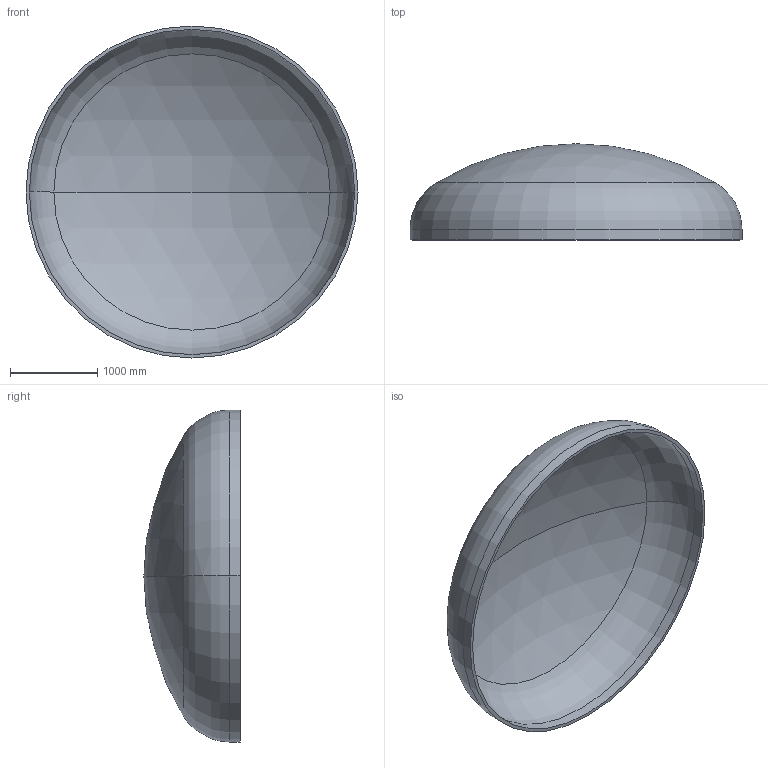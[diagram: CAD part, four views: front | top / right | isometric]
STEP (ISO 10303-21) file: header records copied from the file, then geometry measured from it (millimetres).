
FILE_DESCRIPTION (( 'STEP AP203' ), '1' );
FILE_NAME ('DIN 28013 Korbbogenform_-_Boden DIN 28013 - 3800 x 120 - I - s=38.step', '2016-07-01T21:21:16', ( '' ), ( '' ), 'SwSTEP 2.0', 'SolidWorks 2013', '' );
FILE_SCHEMA (( 'CONFIG_CONTROL_DESIGN' ));
Length unit declared in the file: millimetre
Products named in the file (1): DIN 28013 Korbbogenform_-_Boden DIN 28013 - 3800 x 120 - I - s=38
Bounding box: 3800 x 1101.27 x 3800 mm (x, y, z)
Volume: 642890680.4 mm3; surface area: 34288473 mm2
Topology: 1 solids, 1 shells, 13 faces, 24 edges, 14 vertices
Faces by surface type: torus 4, cylinder 4, sphere 4, plane 1
Entity records: 407 total; most frequent: DIRECTION 72, CARTESIAN_POINT 52, ORIENTED_EDGE 48, AXIS2_PLACEMENT_3D 34, EDGE_CURVE 24, CIRCLE 20, VERTEX_POINT 14, EDGE_LOOP 14
